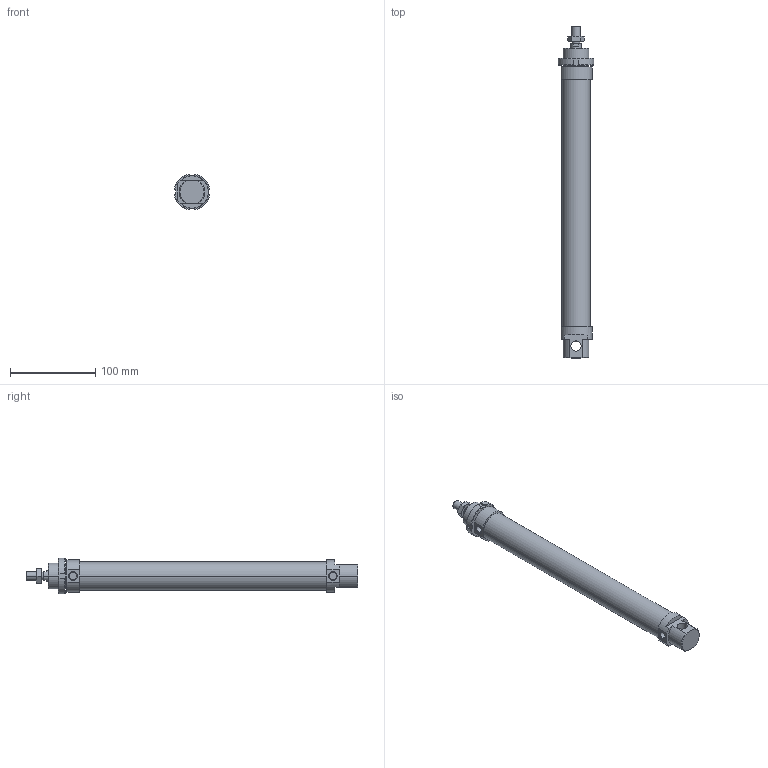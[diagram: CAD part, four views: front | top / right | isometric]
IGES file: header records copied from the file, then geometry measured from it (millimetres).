
Global section: file name: No Iges File Name specified; native system: AutoDesk Inventor R6.0; preprocessor: AutoDesk Inventor Iges Exporter R6.0; author: No Author specified; organization: No Organization specified; date: 20030407.191823; units: millimetre
Bounding box: 41.7 x 389 x 41.7 mm (x, y, z)
Volume: 323363.5 mm3; surface area: 68735.8 mm2
Topology: 4 solids, 4 shells, 122 faces, 286 edges, 180 vertices
Faces by surface type: plane 44, cone 30, cylinder 22, bspline 20, revolution 6
